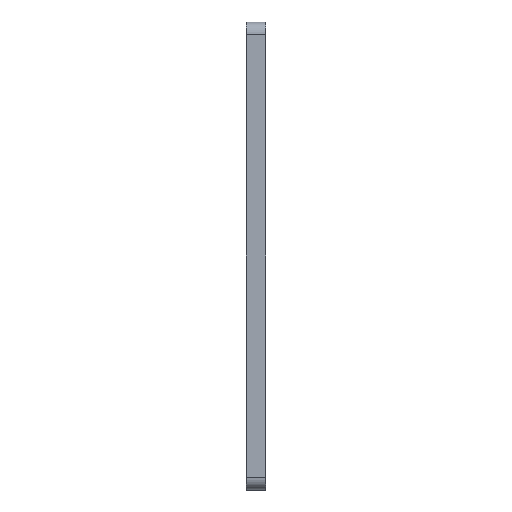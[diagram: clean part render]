
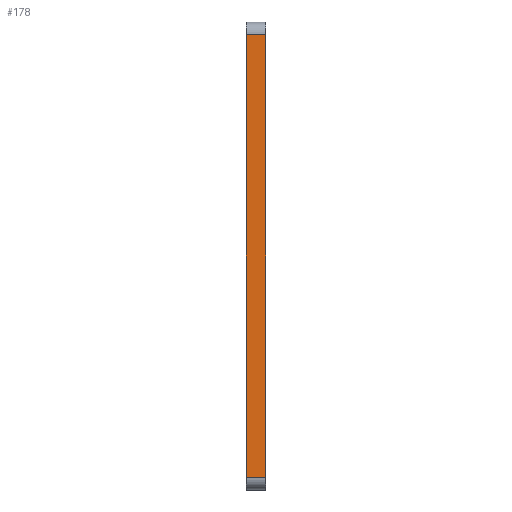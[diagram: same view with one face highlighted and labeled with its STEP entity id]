
A CAD part, left-side view. The second image highlights one B-rep face of the part: STEP entity #178.
In plain terms, the highlighted planar face has unit normal (-1, 0, 0).
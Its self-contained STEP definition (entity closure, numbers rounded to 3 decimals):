
#20 = DIRECTION ( 'NONE',  ( 0., 0., 1. ) ) ;
#34 = VECTOR ( 'NONE', #371, 1000. ) ;
#43 = DIRECTION ( 'NONE',  ( 0., 0., -1. ) ) ;
#88 = EDGE_CURVE ( 'NONE', #394, #368, #252, .T. ) ;
#178 = ADVANCED_FACE ( 'NONE', ( #652 ), #205, .F. ) ;
#187 = AXIS2_PLACEMENT_3D ( 'NONE', #721, #397, #43 ) ;
#188 = CARTESIAN_POINT ( 'NONE',  ( -23.539, 0., 40.563 ) ) ;
#205 = PLANE ( 'NONE',  #187 ) ;
#212 = LINE ( 'NONE', #631, #500 ) ;
#223 = LINE ( 'NONE', #378, #333 ) ;
#224 = ORIENTED_EDGE ( 'NONE', *, *, #88, .T. ) ;
#228 = VERTEX_POINT ( 'NONE', #540 ) ;
#252 = LINE ( 'NONE', #188, #258 ) ;
#258 = VECTOR ( 'NONE', #534, 1000. ) ;
#289 = EDGE_CURVE ( 'NONE', #228, #293, #223, .T. ) ;
#293 = VERTEX_POINT ( 'NONE', #413 ) ;
#294 = ORIENTED_EDGE ( 'NONE', *, *, #350, .T. ) ;
#302 = ORIENTED_EDGE ( 'NONE', *, *, #594, .F. ) ;
#333 = VECTOR ( 'NONE', #20, 1000. ) ;
#350 = EDGE_CURVE ( 'NONE', #228, #394, #212, .T. ) ;
#368 = VERTEX_POINT ( 'NONE', #522 ) ;
#371 = DIRECTION ( 'NONE',  ( 0., -1., 0. ) ) ;
#378 = CARTESIAN_POINT ( 'NONE',  ( -23.539, 4., 40.563 ) ) ;
#394 = VERTEX_POINT ( 'NONE', #463 ) ;
#397 = DIRECTION ( 'NONE',  ( 1., 0., 0. ) ) ;
#401 = LINE ( 'NONE', #569, #34 ) ;
#413 = CARTESIAN_POINT ( 'NONE',  ( -23.539, 4., 40.563 ) ) ;
#426 = DIRECTION ( 'NONE',  ( 0., -1., 0. ) ) ;
#463 = CARTESIAN_POINT ( 'NONE',  ( -23.539, 0., -50.237 ) ) ;
#500 = VECTOR ( 'NONE', #426, 1000. ) ;
#505 = EDGE_LOOP ( 'NONE', ( #224, #302, #517, #294 ) ) ;
#517 = ORIENTED_EDGE ( 'NONE', *, *, #289, .F. ) ;
#522 = CARTESIAN_POINT ( 'NONE',  ( -23.539, 0., 40.563 ) ) ;
#534 = DIRECTION ( 'NONE',  ( 0., 0., 1. ) ) ;
#540 = CARTESIAN_POINT ( 'NONE',  ( -23.539, 4., -50.237 ) ) ;
#569 = CARTESIAN_POINT ( 'NONE',  ( -23.539, 4., 40.563 ) ) ;
#594 = EDGE_CURVE ( 'NONE', #293, #368, #401, .T. ) ;
#631 = CARTESIAN_POINT ( 'NONE',  ( -23.539, 4., -50.237 ) ) ;
#652 = FACE_OUTER_BOUND ( 'NONE', #505, .T. ) ;
#721 = CARTESIAN_POINT ( 'NONE',  ( -23.539, 4., 40.563 ) ) ;
